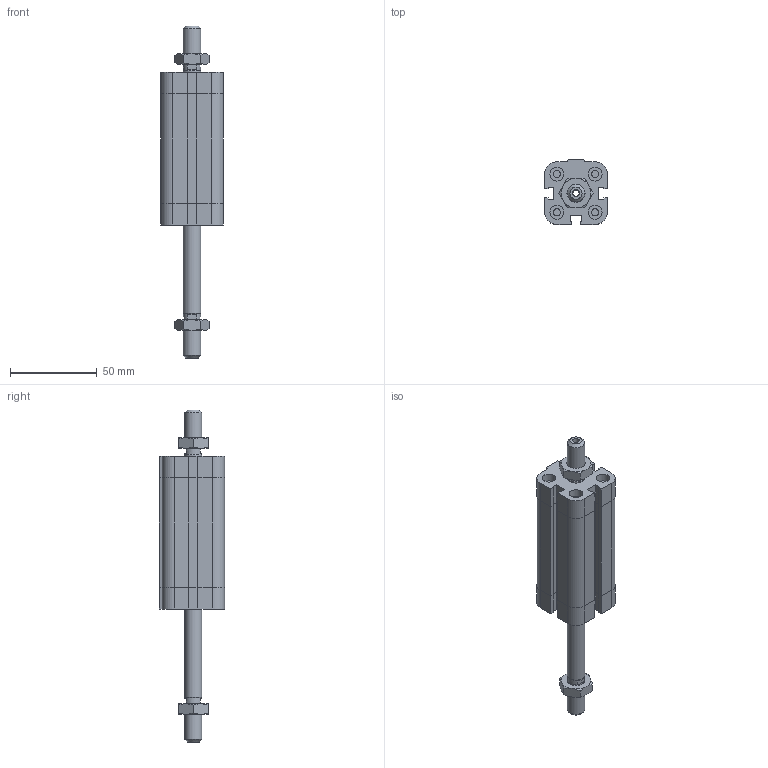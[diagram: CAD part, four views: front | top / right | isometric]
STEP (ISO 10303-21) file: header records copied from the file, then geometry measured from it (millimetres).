
FILE_DESCRIPTION((''),'2;1');
FILE_NAME('I:\Area Tecnica\Disegni\VARIE-3D\Componenti\EUROPE\15##_###_####_05_#\1581_20_0050_05_1.iam.stp','2009-04-20T15:00:02',(''),(''),'Autodesk Inventor 2009','Autodesk Inventor 2009','');
FILE_SCHEMA(('AUTOMOTIVE_DESIGN { 1 0 10303 214 1 1 1 1 }'));
Length unit declared in the file: millimetre
Products named in the file (4): 1581_20_0050_05_1; 1581_20_0050_03_1_C; 1561_20_0050_05_1_S; DBFM10
Assembly tree (4 placements, depth 2):
  1581_20_0050_05_1
    1581_20_0050_03_1_C
    1561_20_0050_05_1_S
    DBFM10  x2
Bounding box: 36 x 37.5 x 191 mm (x, y, z)
Volume: 107122.8 mm3; surface area: 33188.8 mm2
Topology: 4 solids, 4 shells, 223 faces, 486 edges, 291 vertices
Faces by surface type: plane 129, cone 35, bspline 34, cylinder 25
Full cylindrical faces by diameter (mm): 4.134 x4, 7.9 x1, 8 x4, 9.8 x2, 10 x2
Entity records: 5497 total; most frequent: CARTESIAN_POINT 1244, DIRECTION 806, ORIENTED_EDGE 776, EDGE_CURVE 388, AXIS2_PLACEMENT_3D 274, EDGE_LOOP 262, VECTOR 258, LINE 258
